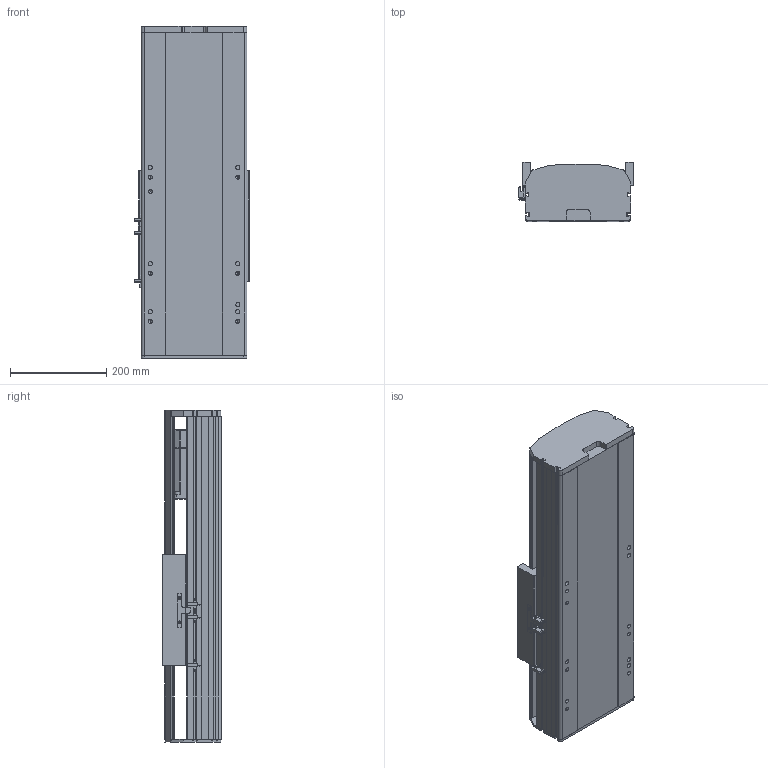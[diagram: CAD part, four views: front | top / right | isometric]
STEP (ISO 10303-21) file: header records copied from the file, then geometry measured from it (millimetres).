
FILE_DESCRIPTION (( 'STEP AP214' ), '1' );
FILE_NAME ('RTH22-XX-100-B-M75-C4.STEP', '2025-10-24T10:25:39', ( 'Microsoft' ), ( 'Microsoft' ), 'SwSTEP 2.0', 'SolidWorks 2018', '' );
FILE_SCHEMA (( 'AUTOMOTIVE_DESIGN' ));
Length unit declared in the file: millimetre
Products named in the file (9): N_750W萇儂^RTH22-XX-XX-B-M75-C4; N_RTH22-E-004-SFS25賑釱^RTH22-XX-XX-B-M75-C4; N_RTH22-B-008萇儂啣^RTH22-XX-XX-B-M75-C4; N_RTH22-GY-013外置感应片^RTH22-XX-XX-B-M75-C4; N_OMRON EE-SX672 传感器^RTH22-XX-XX-B-M75-C4; RTH22-XX-100-B-M75-C4; N_RTH22-B-011菁釱^RTH22-XX-XX-B-M75-C4; N_RTH22-B-007奻裔^RTH22-XX-XX-B-M75-C4; N_RTH22-GY-001耜裔^RTH22-XX-XX-B-M75-C4
Assembly tree (10 placements, depth 2):
  RTH22-XX-100-B-M75-C4
    N_RTH22-B-011菁釱^RTH22-XX-XX-B-M75-C4
    N_RTH22-GY-001耜裔^RTH22-XX-XX-B-M75-C4
    N_750W萇儂^RTH22-XX-XX-B-M75-C4
    N_RTH22-B-008萇儂啣^RTH22-XX-XX-B-M75-C4
    N_RTH22-B-007奻裔^RTH22-XX-XX-B-M75-C4
    N_OMRON EE-SX672 传感器^RTH22-XX-XX-B-M75-C4  x3
    N_RTH22-GY-013外置感应片^RTH22-XX-XX-B-M75-C4
    N_RTH22-E-004-SFS25賑釱^RTH22-XX-XX-B-M75-C4
Bounding box: 238.5 x 122 x 690 mm (x, y, z)
Volume: 10969397 mm3; surface area: 1172614.6 mm2
Topology: 10 solids, 10 shells, 1461 faces, 4000 edges, 2593 vertices
Faces by surface type: plane 746, cylinder 394, bspline 279, cone 42
Entity records: 35459 total; most frequent: CARTESIAN_POINT 11253, ORIENTED_EDGE 5008, DIRECTION 4622, EDGE_CURVE 2504, VERTEX_POINT 1629, VECTOR 1578, LINE 1578, AXIS2_PLACEMENT_3D 1522
